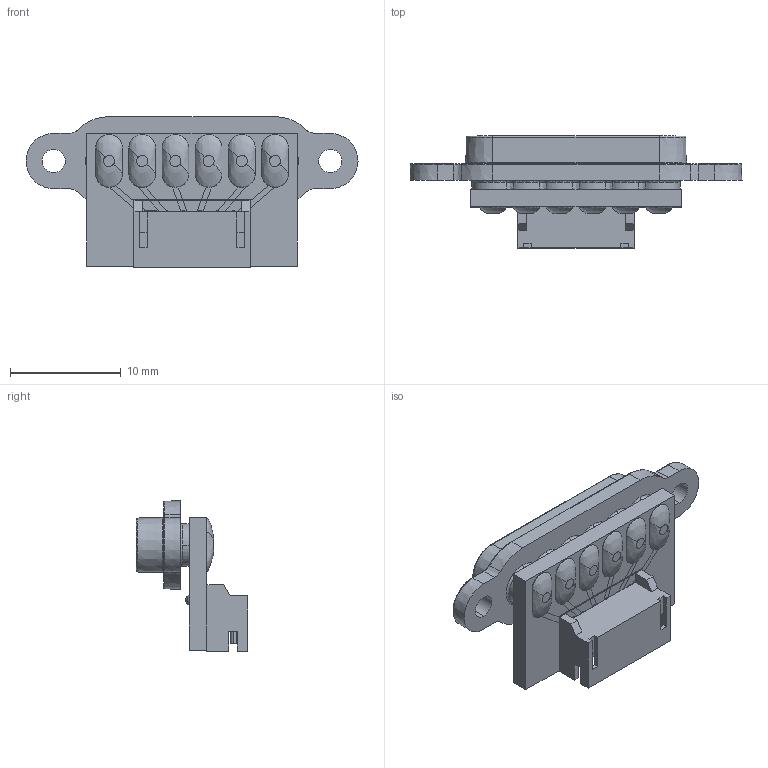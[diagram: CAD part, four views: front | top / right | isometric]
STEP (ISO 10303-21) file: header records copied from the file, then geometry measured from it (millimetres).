
FILE_DESCRIPTION (( 'STEP AP214' ), '1' );
FILE_NAME ('SWIFT DOCK MINI-6PC-L.STEP', '2021-07-28T14:32:26', ( '' ), ( '' ), 'SwSTEP 2.0', 'SolidWorks 2021', '' );
FILE_SCHEMA (( 'AUTOMOTIVE_DESIGN' ));
Length unit declared in the file: millimetre
Products named in the file (8): S6B-ZR; solder_large_SD mini_16; SD_MINI_6_PCB; SD_MINI_6_PCB_ASSY_with connector; IPPS2S_1; SD_MINI_6_L_PLASTIC_1; SWIFT DOCK MINI-6PC-L; solder spill_small_sd mini_8
Assembly tree (22 placements, depth 3):
  SWIFT DOCK MINI-6PC-L
    SD_MINI_6_L_PLASTIC_1
    IPPS2S_1  x6
    SD_MINI_6_PCB_ASSY_with connector
      SD_MINI_6_PCB
      S6B-ZR
    solder_large_SD mini_16  x6
    solder spill_small_sd mini_8  x6
Bounding box: 30 x 10.1 x 13.6 mm (x, y, z)
Volume: 1056.6 mm3; surface area: 2184.2 mm2
Topology: 21 solids, 21 shells, 653 faces, 1550 edges, 969 vertices
Faces by surface type: plane 236, cylinder 186, cone 127, bspline 104
Entity records: 23186 total; most frequent: CARTESIAN_POINT 6658, ORIENTED_EDGE 2396, DIRECTION 2062, EDGE_CURVE 1198, AXIS2_PLACEMENT_3D 783, VERTEX_POINT 754, EDGE_LOOP 554, UNCERTAINTY_MEASURE_WITH_UNIT 503
